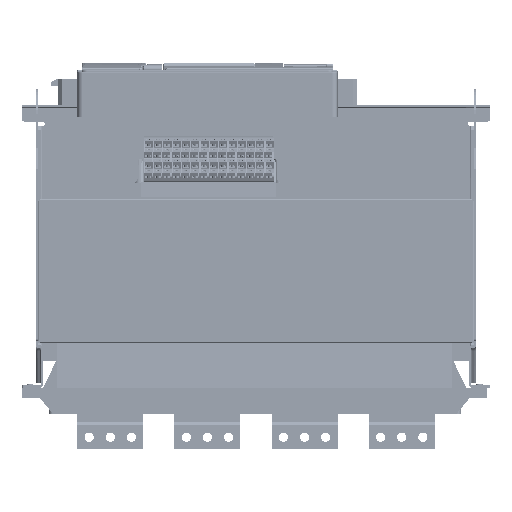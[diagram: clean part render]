
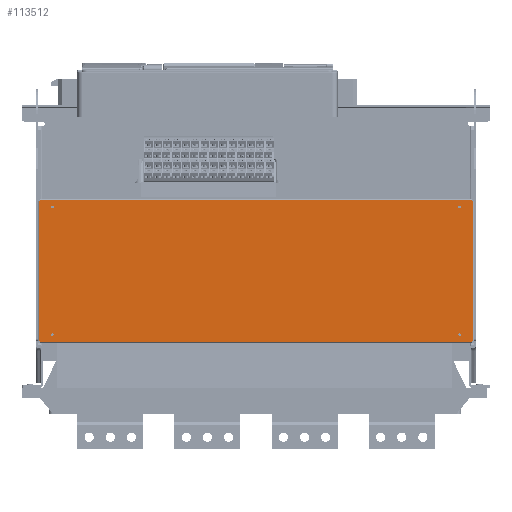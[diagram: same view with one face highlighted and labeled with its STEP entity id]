
A CAD part, front view. The second image highlights one B-rep face of the part: STEP entity #113512.
In plain terms, the highlighted planar face has unit normal (0, -1, 0) as drawn and (0, 0, -1) by its records, which use the part's own axes.
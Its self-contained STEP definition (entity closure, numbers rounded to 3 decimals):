
#5668=FACE_BOUND('',#17019,.T.);
#5669=FACE_BOUND('',#17020,.T.);
#5670=FACE_BOUND('',#17021,.T.);
#5671=FACE_BOUND('',#17022,.T.);
#10472=FACE_OUTER_BOUND('',#17018,.T.);
#17018=EDGE_LOOP('',(#97726,#97727,#97728,#97729,#97730,#97731,#97732,#97733,
#97734,#97735,#97736,#97737));
#17019=EDGE_LOOP('',(#97738));
#17020=EDGE_LOOP('',(#97739));
#17021=EDGE_LOOP('',(#97740));
#17022=EDGE_LOOP('',(#97741));
#21300=CIRCLE('',#122849,1.6);
#21301=CIRCLE('',#122850,1.6);
#21302=CIRCLE('',#122851,1.6);
#21303=CIRCLE('',#122852,1.6);
#30758=LINE('',#241010,#42502);
#30759=LINE('',#241012,#42503);
#30760=LINE('',#241014,#42504);
#30761=LINE('',#241016,#42505);
#30762=LINE('',#241018,#42506);
#30763=LINE('',#241020,#42507);
#30764=LINE('',#241022,#42508);
#30765=LINE('',#241024,#42509);
#30766=LINE('',#241026,#42510);
#30767=LINE('',#241028,#42511);
#30768=LINE('',#241030,#42512);
#30769=LINE('',#241031,#42513);
#42502=VECTOR('',#148611,512.);
#42503=VECTOR('',#148612,1.);
#42504=VECTOR('',#148613,1.);
#42505=VECTOR('',#148614,166.);
#42506=VECTOR('',#148615,1.);
#42507=VECTOR('',#148616,1.);
#42508=VECTOR('',#148617,512.);
#42509=VECTOR('',#148618,1.);
#42510=VECTOR('',#148619,1.);
#42511=VECTOR('',#148620,166.);
#42512=VECTOR('',#148621,1.);
#42513=VECTOR('',#148622,1.);
#53607=VERTEX_POINT('',#241008);
#53608=VERTEX_POINT('',#241009);
#53609=VERTEX_POINT('',#241011);
#53610=VERTEX_POINT('',#241013);
#53611=VERTEX_POINT('',#241015);
#53612=VERTEX_POINT('',#241017);
#53613=VERTEX_POINT('',#241019);
#53614=VERTEX_POINT('',#241021);
#53615=VERTEX_POINT('',#241023);
#53616=VERTEX_POINT('',#241025);
#53617=VERTEX_POINT('',#241027);
#53618=VERTEX_POINT('',#241029);
#53619=VERTEX_POINT('',#241032);
#53620=VERTEX_POINT('',#241034);
#53621=VERTEX_POINT('',#241036);
#53622=VERTEX_POINT('',#241038);
#68701=EDGE_CURVE('',#53607,#53608,#30758,.T.);
#68702=EDGE_CURVE('',#53608,#53609,#30759,.T.);
#68703=EDGE_CURVE('',#53610,#53609,#30760,.T.);
#68704=EDGE_CURVE('',#53610,#53611,#30761,.T.);
#68705=EDGE_CURVE('',#53611,#53612,#30762,.T.);
#68706=EDGE_CURVE('',#53613,#53612,#30763,.T.);
#68707=EDGE_CURVE('',#53613,#53614,#30764,.T.);
#68708=EDGE_CURVE('',#53614,#53615,#30765,.T.);
#68709=EDGE_CURVE('',#53616,#53615,#30766,.T.);
#68710=EDGE_CURVE('',#53616,#53617,#30767,.T.);
#68711=EDGE_CURVE('',#53617,#53618,#30768,.T.);
#68712=EDGE_CURVE('',#53607,#53618,#30769,.T.);
#68713=EDGE_CURVE('',#53619,#53619,#21300,.T.);
#68714=EDGE_CURVE('',#53620,#53620,#21301,.T.);
#68715=EDGE_CURVE('',#53621,#53621,#21302,.T.);
#68716=EDGE_CURVE('',#53622,#53622,#21303,.T.);
#97726=ORIENTED_EDGE('',*,*,#68701,.T.);
#97727=ORIENTED_EDGE('',*,*,#68702,.T.);
#97728=ORIENTED_EDGE('',*,*,#68703,.F.);
#97729=ORIENTED_EDGE('',*,*,#68704,.T.);
#97730=ORIENTED_EDGE('',*,*,#68705,.T.);
#97731=ORIENTED_EDGE('',*,*,#68706,.F.);
#97732=ORIENTED_EDGE('',*,*,#68707,.T.);
#97733=ORIENTED_EDGE('',*,*,#68708,.T.);
#97734=ORIENTED_EDGE('',*,*,#68709,.F.);
#97735=ORIENTED_EDGE('',*,*,#68710,.T.);
#97736=ORIENTED_EDGE('',*,*,#68711,.T.);
#97737=ORIENTED_EDGE('',*,*,#68712,.F.);
#97738=ORIENTED_EDGE('',*,*,#68713,.F.);
#97739=ORIENTED_EDGE('',*,*,#68714,.F.);
#97740=ORIENTED_EDGE('',*,*,#68715,.F.);
#97741=ORIENTED_EDGE('',*,*,#68716,.F.);
#107800=PLANE('',#122848);
#113512=ADVANCED_FACE('',(#10472,#5668,#5669,#5670,#5671),#107800,.F.);
#122848=AXIS2_PLACEMENT_3D('',#241007,#148609,#148610);
#122849=AXIS2_PLACEMENT_3D('',#241033,#148623,#148624);
#122850=AXIS2_PLACEMENT_3D('',#241035,#148625,#148626);
#122851=AXIS2_PLACEMENT_3D('',#241037,#148627,#148628);
#122852=AXIS2_PLACEMENT_3D('',#241039,#148629,#148630);
#148609=DIRECTION('center_axis',(0.,0.,1.));
#148610=DIRECTION('ref_axis',(1.,0.,0.));
#148611=DIRECTION('',(-1.,0.,0.));
#148612=DIRECTION('',(0.,1.,0.));
#148613=DIRECTION('',(1.,0.,0.));
#148614=DIRECTION('',(0.,1.,0.));
#148615=DIRECTION('',(1.,0.,0.));
#148616=DIRECTION('',(0.,-1.,0.));
#148617=DIRECTION('',(1.,0.,0.));
#148618=DIRECTION('',(0.,-1.,0.));
#148619=DIRECTION('',(-1.,0.,0.));
#148620=DIRECTION('',(0.,-1.,0.));
#148621=DIRECTION('',(-1.,0.,0.));
#148622=DIRECTION('',(0.,1.,0.));
#148623=DIRECTION('center_axis',(0.,0.,-1.));
#148624=DIRECTION('ref_axis',(-1.,0.,0.));
#148625=DIRECTION('center_axis',(0.,0.,-1.));
#148626=DIRECTION('ref_axis',(-1.,0.,0.));
#148627=DIRECTION('center_axis',(0.,0.,-1.));
#148628=DIRECTION('ref_axis',(-1.,0.,0.));
#148629=DIRECTION('center_axis',(0.,0.,-1.));
#148630=DIRECTION('ref_axis',(-1.,0.,0.));
#241007=CARTESIAN_POINT('Origin',(0.,0.,0.));
#241008=CARTESIAN_POINT('',(256.,-84.,0.));
#241009=CARTESIAN_POINT('',(-256.,-84.,0.));
#241010=CARTESIAN_POINT('',(256.,-84.,0.));
#241011=CARTESIAN_POINT('',(-256.,-83.,0.));
#241012=CARTESIAN_POINT('',(-256.,-84.,0.));
#241013=CARTESIAN_POINT('',(-257.,-83.,0.));
#241014=CARTESIAN_POINT('',(-257.,-83.,0.));
#241015=CARTESIAN_POINT('',(-257.,83.,0.));
#241016=CARTESIAN_POINT('',(-257.,-83.,0.));
#241017=CARTESIAN_POINT('',(-256.,83.,0.));
#241018=CARTESIAN_POINT('',(-257.,83.,0.));
#241019=CARTESIAN_POINT('',(-256.,84.,0.));
#241020=CARTESIAN_POINT('',(-256.,84.,0.));
#241021=CARTESIAN_POINT('',(256.,84.,0.));
#241022=CARTESIAN_POINT('',(-256.,84.,0.));
#241023=CARTESIAN_POINT('',(256.,83.,0.));
#241024=CARTESIAN_POINT('',(256.,84.,0.));
#241025=CARTESIAN_POINT('',(257.,83.,0.));
#241026=CARTESIAN_POINT('',(257.,83.,0.));
#241027=CARTESIAN_POINT('',(257.,-83.,0.));
#241028=CARTESIAN_POINT('',(257.,83.,0.));
#241029=CARTESIAN_POINT('',(256.,-83.,0.));
#241030=CARTESIAN_POINT('',(257.,-83.,0.));
#241031=CARTESIAN_POINT('',(256.,-84.,0.));
#241032=CARTESIAN_POINT('',(-242.6,75.5,0.));
#241033=CARTESIAN_POINT('Origin',(-241.,75.5,0.));
#241034=CARTESIAN_POINT('',(239.4,75.5,0.));
#241035=CARTESIAN_POINT('Origin',(241.,75.5,0.));
#241036=CARTESIAN_POINT('',(239.4,-75.5,0.));
#241037=CARTESIAN_POINT('Origin',(241.,-75.5,0.));
#241038=CARTESIAN_POINT('',(-242.6,-75.5,0.));
#241039=CARTESIAN_POINT('Origin',(-241.,-75.5,0.));
